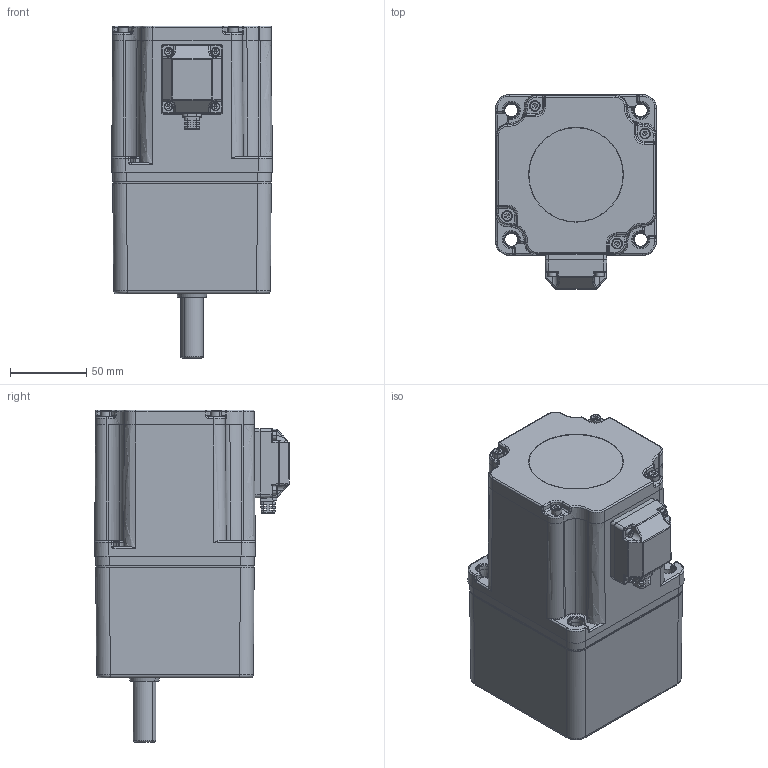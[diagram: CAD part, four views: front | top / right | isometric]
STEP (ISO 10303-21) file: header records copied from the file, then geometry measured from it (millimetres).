
FILE_DESCRIPTION (( 'STEP AP203' ), '1' );
FILE_NAME ('100K2蚾饜.STEP', '2023-10-06T02:47:47', ( 'Windows 蚚誧' ), ( 'Organization' ), 'SwSTEP 2.0', 'SolidWorks 2019', '' );
FILE_SCHEMA (( 'CONFIG_CONTROL_DESIGN' ));
Length unit declared in the file: millimetre
Products named in the file (13): 100K2____.STEP; 蚐猾100; hexagon socket head cap screws gb_GB_FASTENER_SCREWS_HSHCS M4X8-N.STEP; ________2023.6.28_step.STEP; 100K2萇儂湍諉盄碟.STEP; K2______.STEP; 100K2蚾饜; hexagon socket head cap screws gb_GB_FASTENER_SCREWS_HSHCS M3X8-N.STEP; ZD-6GUK2-504-001#眊极.step; 90 104__________.STEP; ZD-6GUK2-505-001#眊裔.step; 100K2______.STEP; 6GU100K2-544
Assembly tree (18 placements, depth 4):
  100K2蚾饜
    ZD-6GUK2-504-001#眊极.step
    ZD-6GUK2-505-001#眊裔.step
    6GU100K2-544
    蚐猾100
    100K2萇儂湍諉盄碟.STEP
      90 104__________.STEP
        ________2023.6.28_step.STEP
        K2______.STEP
        hexagon socket head cap screws gb_GB_FASTENER_SCREWS_HSHCS M3X8-N.STEP  x4
      100K2______.STEP
      100K2____.STEP
      hexagon socket head cap screws gb_GB_FASTENER_SCREWS_HSHCS M4X8-N.STEP  x4
Bounding box: 105.51 x 127.89 x 217.8 mm (x, y, z)
Volume: 1709520.7 mm3; surface area: 215888.6 mm2
Topology: 17 solids, 18 shells, 2691 faces, 6752 edges, 4100 vertices
Faces by surface type: plane 713, cylinder 694, bspline 512, cone 351, torus 301, sphere 120
Entity records: 98462 total; most frequent: CARTESIAN_POINT 39597, ORIENTED_EDGE 12640, DIRECTION 11240, EDGE_CURVE 6320, AXIS2_PLACEMENT_3D 4451, VERTEX_POINT 3902, EDGE_LOOP 2724, FACE_OUTER_BOUND 2541
